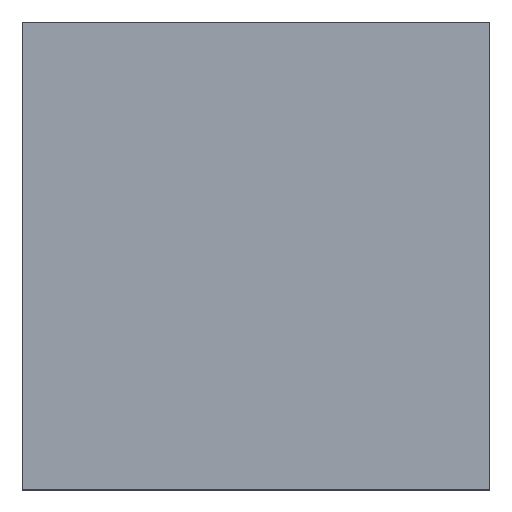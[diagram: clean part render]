
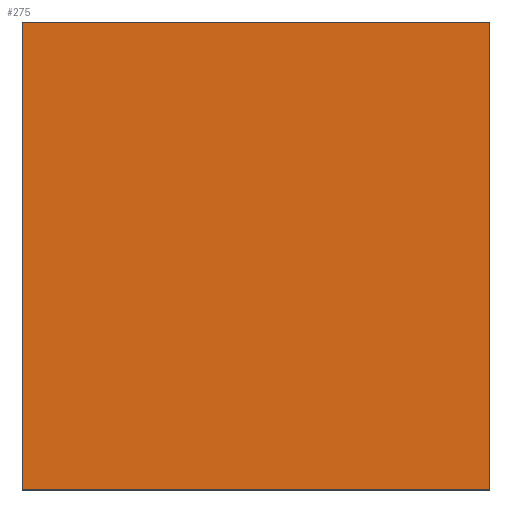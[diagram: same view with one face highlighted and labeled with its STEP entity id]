
A CAD part, top view. The second image highlights one B-rep face of the part: STEP entity #275.
In plain terms, the highlighted planar face has unit normal (0, 0, 1).
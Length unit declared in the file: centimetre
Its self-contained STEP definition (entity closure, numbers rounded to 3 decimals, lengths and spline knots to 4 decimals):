
#12 = VERTEX_POINT ( 'NONE', #357 ) ;
#30 = ORIENTED_EDGE ( 'NONE', *, *, #187, .T. ) ;
#39 = VERTEX_POINT ( 'NONE', #493 ) ;
#42 = ORIENTED_EDGE ( 'NONE', *, *, #467, .T. ) ;
#64 = AXIS2_PLACEMENT_3D ( 'NONE', #496, #280, #455 ) ;
#75 = EDGE_LOOP ( 'NONE', ( #30, #340, #42, #201 ) ) ;
#105 = EDGE_CURVE ( 'NONE', #257, #116, #312, .T. ) ;
#116 = VERTEX_POINT ( 'NONE', #523 ) ;
#147 = CARTESIAN_POINT ( 'NONE',  ( 0., 1000., 1000. ) ) ;
#149 = FACE_OUTER_BOUND ( 'NONE', #75, .T. ) ;
#157 = CARTESIAN_POINT ( 'NONE',  ( 0., 0., 1000. ) ) ;
#183 = DIRECTION ( 'NONE',  ( 0., 1., 0. ) ) ;
#187 = EDGE_CURVE ( 'NONE', #116, #12, #530, .T. ) ;
#201 = ORIENTED_EDGE ( 'NONE', *, *, #105, .T. ) ;
#204 = DIRECTION ( 'NONE',  ( 1., 0., 0. ) ) ;
#249 = LINE ( 'NONE', #157, #561 ) ;
#257 = VERTEX_POINT ( 'NONE', #441 ) ;
#275 = ADVANCED_FACE ( 'NONE', ( #149 ), #321, .T. ) ;
#280 = DIRECTION ( 'NONE',  ( 0., 0., 1. ) ) ;
#312 = LINE ( 'NONE', #484, #372 ) ;
#320 = DIRECTION ( 'NONE',  ( 0., -1., 0. ) ) ;
#321 = PLANE ( 'NONE',  #64 ) ;
#340 = ORIENTED_EDGE ( 'NONE', *, *, #516, .T. ) ;
#357 = CARTESIAN_POINT ( 'NONE',  ( 0., 0., 1000. ) ) ;
#363 = VECTOR ( 'NONE', #320, 100. ) ;
#372 = VECTOR ( 'NONE', #388, 100. ) ;
#388 = DIRECTION ( 'NONE',  ( -1., 0., 0. ) ) ;
#394 = LINE ( 'NONE', #481, #497 ) ;
#441 = CARTESIAN_POINT ( 'NONE',  ( 1000., 1000., 1000. ) ) ;
#455 = DIRECTION ( 'NONE',  ( 1., 0., 0. ) ) ;
#467 = EDGE_CURVE ( 'NONE', #39, #257, #394, .T. ) ;
#481 = CARTESIAN_POINT ( 'NONE',  ( 1000., 1000., 1000. ) ) ;
#484 = CARTESIAN_POINT ( 'NONE',  ( 0., 1000., 1000. ) ) ;
#493 = CARTESIAN_POINT ( 'NONE',  ( 1000., 0., 1000. ) ) ;
#496 = CARTESIAN_POINT ( 'NONE',  ( 0., 0., 1000. ) ) ;
#497 = VECTOR ( 'NONE', #183, 100. ) ;
#516 = EDGE_CURVE ( 'NONE', #12, #39, #249, .T. ) ;
#523 = CARTESIAN_POINT ( 'NONE',  ( 0., 1000., 1000. ) ) ;
#530 = LINE ( 'NONE', #147, #363 ) ;
#561 = VECTOR ( 'NONE', #204, 100. ) ;
